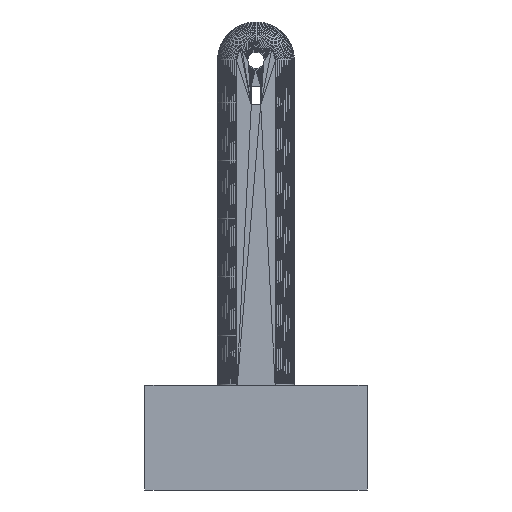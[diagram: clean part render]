
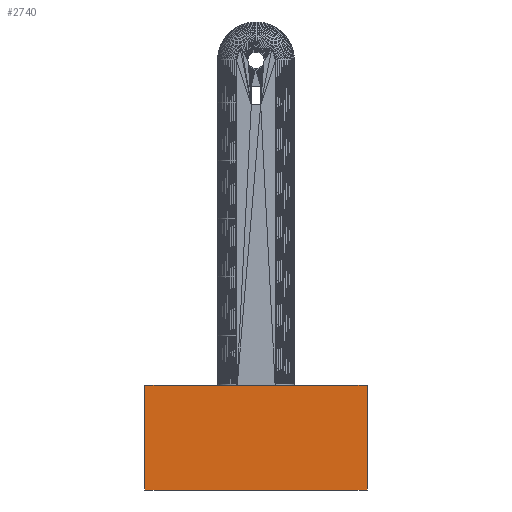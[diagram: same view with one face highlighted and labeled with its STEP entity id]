
A CAD part, left-side view. The second image highlights one B-rep face of the part: STEP entity #2740.
In plain terms, the highlighted planar face has unit normal (-1, 0, 0).
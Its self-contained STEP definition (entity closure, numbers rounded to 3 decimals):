
#2740=ADVANCED_FACE('',(#8102),#58087,.T.);
#8102=FACE_OUTER_BOUND('',#13475,.T.);
#13475=EDGE_LOOP('',(#24933,#24934,#24935,#24936,#24937,#24938,#24939,#24940));
#24933=ORIENTED_EDGE('',*,*,#38578,.F.);
#24934=ORIENTED_EDGE('',*,*,#38390,.T.);
#24935=ORIENTED_EDGE('',*,*,#38241,.T.);
#24936=ORIENTED_EDGE('',*,*,#38393,.T.);
#24937=ORIENTED_EDGE('',*,*,#38577,.F.);
#24938=ORIENTED_EDGE('',*,*,#38427,.T.);
#24939=ORIENTED_EDGE('',*,*,#38402,.F.);
#24940=ORIENTED_EDGE('',*,*,#38419,.F.);
#38241=EDGE_CURVE('',#53274,#53272,#47177,.T.);
#38390=EDGE_CURVE('',#53687,#53274,#47321,.T.);
#38393=EDGE_CURVE('',#53272,#53686,#47324,.T.);
#38402=EDGE_CURVE('',#53697,#53693,#47333,.T.);
#38419=EDGE_CURVE('',#53710,#53697,#47350,.T.);
#38427=EDGE_CURVE('',#53708,#53693,#47358,.T.);
#38577=EDGE_CURVE('',#53708,#53686,#47468,.T.);
#38578=EDGE_CURVE('',#53687,#53710,#47469,.T.);
#47177=B_SPLINE_CURVE_WITH_KNOTS('',1,(#85650,#85651),.UNSPECIFIED.,.F.,
 .F.,(2,2),(-110.144,-67.072),.UNSPECIFIED.);
#47321=B_SPLINE_CURVE_WITH_KNOTS('',1,(#85972,#85973),.UNSPECIFIED.,.F.,
 .F.,(2,2),(-3.464,0.),.UNSPECIFIED.);
#47324=B_SPLINE_CURVE_WITH_KNOTS('',1,(#85978,#85979),.UNSPECIFIED.,.F.,
 .F.,(2,2),(0.,3.464),.UNSPECIFIED.);
#47333=B_SPLINE_CURVE_WITH_KNOTS('',1,(#85996,#85997),.UNSPECIFIED.,.F.,
 .F.,(2,2),(294.299,337.37),.UNSPECIFIED.);
#47350=B_SPLINE_CURVE_WITH_KNOTS('',1,(#86030,#86031),.UNSPECIFIED.,.F.,
 .F.,(2,2),(-3.464,0.),.UNSPECIFIED.);
#47358=B_SPLINE_CURVE_WITH_KNOTS('',1,(#86046,#86047),.UNSPECIFIED.,.F.,
 .F.,(2,2),(-3.464,0.),.UNSPECIFIED.);
#47468=B_SPLINE_CURVE_WITH_KNOTS('',1,(#86506,#86507),.UNSPECIFIED.,.F.,
 .F.,(2,2),(0.,23.596),.UNSPECIFIED.);
#47469=B_SPLINE_CURVE_WITH_KNOTS('',1,(#86508,#86509),.UNSPECIFIED.,.F.,
 .F.,(2,2),(0.,23.596),.UNSPECIFIED.);
#53272=VERTEX_POINT('',#83404);
#53274=VERTEX_POINT('',#83406);
#53686=VERTEX_POINT('',#83818);
#53687=VERTEX_POINT('',#83819);
#53693=VERTEX_POINT('',#83825);
#53697=VERTEX_POINT('',#83829);
#53708=VERTEX_POINT('',#83840);
#53710=VERTEX_POINT('',#83842);
#58087=PLANE('',#63517);
#63517=AXIS2_PLACEMENT_3D('',#82964,#68867,$);
#68867=DIRECTION('',(-1.,0.,0.));
#82964=CARTESIAN_POINT('',(-37.,225.036,-19.633));
#83404=CARTESIAN_POINT('',(-37.,221.536,3.963));
#83406=CARTESIAN_POINT('',(-37.,178.464,3.963));
#83818=CARTESIAN_POINT('',(-37.,225.,3.963));
#83819=CARTESIAN_POINT('',(-37.,175.,3.963));
#83825=CARTESIAN_POINT('',(-37.,221.536,-19.633));
#83829=CARTESIAN_POINT('',(-37.,178.464,-19.633));
#83840=CARTESIAN_POINT('',(-37.,225.,-19.633));
#83842=CARTESIAN_POINT('',(-37.,175.,-19.633));
#85650=CARTESIAN_POINT('',(-37.,178.464,3.963));
#85651=CARTESIAN_POINT('',(-37.,221.536,3.963));
#85972=CARTESIAN_POINT('',(-37.,175.,3.963));
#85973=CARTESIAN_POINT('',(-37.,178.464,3.963));
#85978=CARTESIAN_POINT('',(-37.,221.536,3.963));
#85979=CARTESIAN_POINT('',(-37.,225.,3.963));
#85996=CARTESIAN_POINT('',(-37.,178.464,-19.633));
#85997=CARTESIAN_POINT('',(-37.,221.536,-19.633));
#86030=CARTESIAN_POINT('',(-37.,175.,-19.633));
#86031=CARTESIAN_POINT('',(-37.,178.464,-19.633));
#86046=CARTESIAN_POINT('',(-37.,225.,-19.633));
#86047=CARTESIAN_POINT('',(-37.,221.536,-19.633));
#86506=CARTESIAN_POINT('',(-37.,225.,-19.633));
#86507=CARTESIAN_POINT('',(-37.,225.,3.963));
#86508=CARTESIAN_POINT('',(-37.,175.,3.963));
#86509=CARTESIAN_POINT('',(-37.,175.,-19.633));
